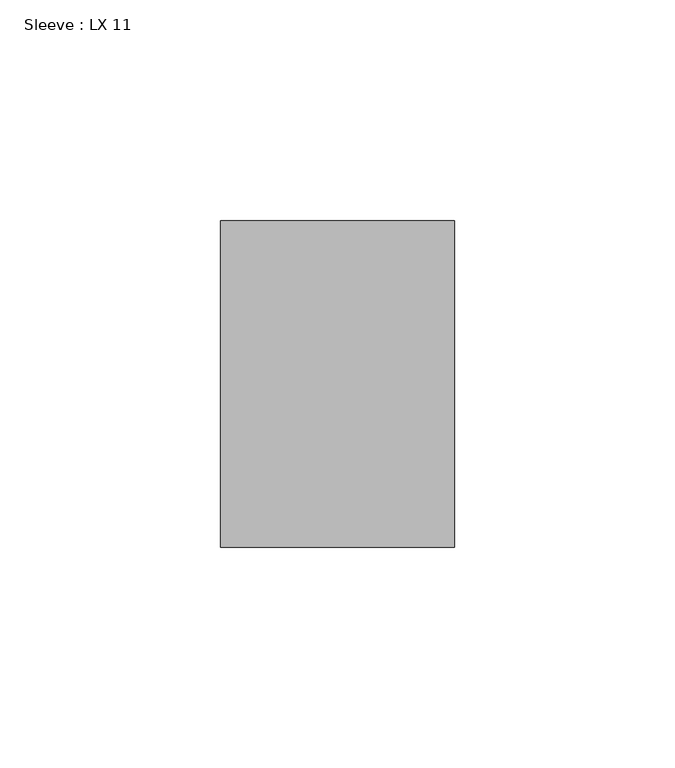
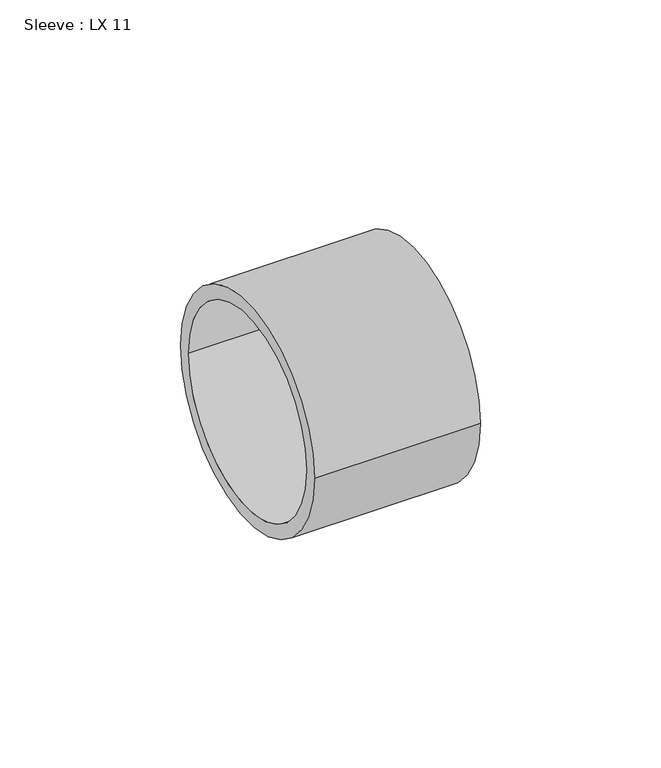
"""IFC4 building model written with IfcOpenShell, lengths in millimetres: pipe fitting geometry, Sleeve : LX 11."""

import ifcopenshell
import ifcopenshell.guid

model = None  # the IFC model being written
_history = None  # IfcOwnerHistory: only IFC2X3 demands one
_inside = {}  # id of a spatial element -> (the spatial element, [elements in it])
_under = {}  # id of a project, library or spatial element -> (it, [spatial elements below it])
_declared = {}  # id of a project -> (the project, [libraries it declares])
_typed = {}  # id of a type object -> (the type object, [elements of that type])
_made_of = {}  # id of a material, layer set ... -> (it, [elements and type objects made of it])


def new_model(schema):
    """Start an empty IFC model of exactly this schema.

    Asked for "IFC4X3", IfcOpenShell would pick the latest addendum, in which some entities
    have other attributes; the version numbers below select the first issue.
    IFC2X3 requires an IfcOwnerHistory on every rooted entity: one is made here for all.
    """
    global model, _history
    if schema == "IFC4X3":
        model = ifcopenshell.file(schema_version=(4, 3, 0, 0))
    else:
        model = ifcopenshell.file(schema=schema)
    _inside.clear()
    _under.clear()
    _declared.clear()
    _typed.clear()
    _made_of.clear()
    _history = None
    if model.schema == "IFC2X3":
        org = make("IfcOrganization", Name="unknown")
        user = make(
            "IfcPersonAndOrganization",
            ThePerson=make("IfcPerson", FamilyName="unknown"),
            TheOrganization=org,
        )
        app = make(
            "IfcApplication",
            ApplicationDeveloper=org,
            Version="unknown",
            ApplicationFullName="unknown",
            ApplicationIdentifier="unknown",
        )
        _history = make(
            "IfcOwnerHistory",
            OwningUser=user,
            OwningApplication=app,
            ChangeAction="ADDED",
            CreationDate=0,
        )
    return model


def make(cls, **values):
    """One entity of the class cls with the attributes given. An attribute that is None is left unset."""
    return model.create_entity(
        cls, **{name: value for name, value in values.items() if value is not None}
    )


def rooted(cls, **values):
    """An entity with a GlobalId (a new one), such as an element, a storey or a relation."""
    return make(cls, GlobalId=ifcopenshell.guid.new(), OwnerHistory=_history, **values)


def si_unit(unit_type, name, prefix=None):
    """IfcSIUnit, for example si_unit("LENGTHUNIT", "METRE", prefix="MILLI")."""
    return make("IfcSIUnit", UnitType=unit_type, Prefix=prefix, Name=name)


def assignment(units):
    """IfcUnitAssignment: the units of a project."""
    return None if units is None else make("IfcUnitAssignment", Units=units)


def point(xyz):
    """IfcCartesianPoint."""
    return None if xyz is None else make("IfcCartesianPoint", Coordinates=xyz)


def direction(xyz):
    """IfcDirection."""
    return None if xyz is None else make("IfcDirection", DirectionRatios=xyz)


def frame(location, z_axis=None, x_axis=None):
    """IfcAxis2Placement3D, a coordinate frame: its origin and axes. An axis left out is left unset."""
    return make(
        "IfcAxis2Placement3D",
        Location=point(location),
        Axis=direction(z_axis),
        RefDirection=direction(x_axis),
    )


def frame_2d(location, x_axis=None):
    """IfcAxis2Placement2D, a coordinate frame in the plane: its origin and x axis."""
    return make(
        "IfcAxis2Placement2D", Location=point(location), RefDirection=direction(x_axis)
    )


def origin():
    """The frame at (0, 0, 0) with its axes left unset."""
    return frame((0.0, 0.0, 0.0))


def origin_2d():
    """The frame at (0, 0) in the plane with its x axis left unset."""
    return frame_2d((0.0, 0.0))


def place(relative_to, where):
    """IfcLocalPlacement: puts the frame where relative to a parent placement (None: the world)."""
    return make(
        "IfcLocalPlacement", PlacementRelTo=relative_to, RelativePlacement=where
    )


def context(
    kind, dimensions, precision=None, world=None, true_north=None, identifier=None
):
    """IfcGeometricRepresentationContext, for example the 3D "Model" context."""
    return make(
        "IfcGeometricRepresentationContext",
        ContextIdentifier=identifier,
        ContextType=kind,
        CoordinateSpaceDimension=dimensions,
        Precision=precision,
        WorldCoordinateSystem=world,
        TrueNorth=true_north,
    )


def project(units=None, contexts=None):
    """IfcProject with its units and contexts."""
    return rooted(
        "IfcProject",
        Name="project",
        RepresentationContexts=contexts,
        UnitsInContext=assignment(units),
    )


def spatial(cls, under=None, at=None, **own):
    """A site, building, storey or space (cls), placed at a placement, below another one or the project."""
    s = rooted(cls, ObjectPlacement=at, **own)
    if under is not None:
        _under.setdefault(under.id(), (under, []))[1].append(s)
    return s


def circle_curve(where, radius):
    """IfcCircle in the frame where."""
    return make("IfcCircle", Position=where, Radius=radius)


def trimmed(basis, trim1, trim2, sense, master):
    """IfcTrimmedCurve: the piece of a basis curve between two trims."""
    return make(
        "IfcTrimmedCurve",
        BasisCurve=basis,
        Trim1=trim1,
        Trim2=trim2,
        SenseAgreement=sense,
        MasterRepresentation=master,
    )


def segment(curve, same_sense, transition):
    """IfcCompositeCurveSegment."""
    return make(
        "IfcCompositeCurveSegment",
        Transition=transition,
        SameSense=same_sense,
        ParentCurve=curve,
    )


def composite_curve(segments, self_intersect=None):
    """IfcCompositeCurve: segments joined end to end."""
    return make("IfcCompositeCurve", Segments=segments, SelfIntersect=self_intersect)


def outline(outer, holes=None, kind="AREA"):
    """IfcArbitraryClosedProfileDef: a profile drawn as a closed curve; with holes, ...WithVoids."""
    if holes is None:
        return make("IfcArbitraryClosedProfileDef", ProfileType=kind, OuterCurve=outer)
    return make(
        "IfcArbitraryProfileDefWithVoids",
        ProfileType=kind,
        OuterCurve=outer,
        InnerCurves=holes,
    )


def extrude(swept, where, along, depth):
    """IfcExtrudedAreaSolid: the profile swept, set in the frame where, extruded along a direction by depth."""
    return make(
        "IfcExtrudedAreaSolid",
        SweptArea=swept,
        Position=where,
        ExtrudedDirection=direction(along),
        Depth=depth,
    )


def shape(context_of_items, identifier, shape_type, items):
    """IfcShapeRepresentation: the items that make up one representation, for example the "Body"."""
    return make(
        "IfcShapeRepresentation",
        ContextOfItems=context_of_items,
        RepresentationIdentifier=identifier,
        RepresentationType=shape_type,
        Items=items,
    )


def source(mapping_origin, context_of_items, identifier, shape_type, items):
    """IfcRepresentationMap: a shape defined once, which mapped items show again and again."""
    return make(
        "IfcRepresentationMap",
        MappingOrigin=mapping_origin,
        MappedRepresentation=shape(context_of_items, identifier, shape_type, items),
    )


def transform(
    local_origin,
    x_axis=None,
    y_axis=None,
    z_axis=None,
    scale=None,
    scale2=None,
    scale3=None,
    uniform=True,
):
    """IfcCartesianTransformationOperator3D, or its non-uniform kind. x_axis, y_axis, z_axis: its Axis1, 2, 3."""
    if uniform:
        return make(
            "IfcCartesianTransformationOperator3D",
            Axis1=direction(x_axis),
            Axis2=direction(y_axis),
            LocalOrigin=point(local_origin),
            Scale=scale,
            Axis3=direction(z_axis),
        )
    return make(
        "IfcCartesianTransformationOperator3DnonUniform",
        Axis1=direction(x_axis),
        Axis2=direction(y_axis),
        LocalOrigin=point(local_origin),
        Scale=scale,
        Axis3=direction(z_axis),
        Scale2=scale2,
        Scale3=scale3,
    )


def mapped(mapping_source, mapping_target):
    """IfcMappedItem: shows the shape of a source again, moved by a transform."""
    return make(
        "IfcMappedItem", MappingSource=mapping_source, MappingTarget=mapping_target
    )


def made_of(thing, what):
    """Note that an element or type object is made of a material, layer set ...; save() writes the relation."""
    if what is not None:
        _made_of.setdefault(what.id(), (what, []))[1].append(thing)
    return thing


def element(
    cls,
    number,
    at=None,
    inside=None,
    cuts=None,
    type_object=None,
    material=None,
    context=None,
    identifier="Body",
    shape_type=None,
    held_by="IfcProductDefinitionShape",
    body=None,
    shapes=None,
    **own,
):
    """One element of the class cls, such as IfcWall. Its Tag is "e" and its number.

    at: its placement. inside: the storey or other place that contains it. cuts: it is an
    opening in that element (IfcRelVoidsElement). A single representation is given by context,
    identifier, shape_type and body (its items); several are given by shapes. held_by: the class
    of the entity that holds the representations. save() writes the other relations.
    """
    e = rooted(cls, Tag="e%d" % number, ObjectPlacement=at, **own)
    if body is not None:
        shapes = [shape(context, identifier, shape_type, body)]
    if shapes is not None:
        e.Representation = make(held_by, Representations=shapes)
    if inside is not None:
        _inside.setdefault(inside.id(), (inside, []))[1].append(e)
    if cuts is not None:
        rooted(
            "IfcRelVoidsElement", RelatingBuildingElement=cuts, RelatedOpeningElement=e
        )
    if type_object is not None:
        _typed.setdefault(type_object.id(), (type_object, []))[1].append(e)
    return made_of(e, material)


def aggregate(whole, parts):
    """IfcRelAggregates: a whole, such as a stair, and the parts it consists of."""
    return rooted("IfcRelAggregates", RelatingObject=whole, RelatedObjects=parts)


def save(model, path):
    """Write the relations noted so far, then the file.

    IfcRelAggregates (storeys below a building ...), IfcRelContainedInSpatialStructure (elements
    in a storey), IfcRelDefinesByType, IfcRelAssociatesMaterial and IfcRelDeclares: one each for
    every whole, place, type object, material and project.
    """
    for whole, parts in _under.values():
        aggregate(whole, parts)
    for where, things in _inside.values():
        rooted(
            "IfcRelContainedInSpatialStructure",
            RelatedElements=things,
            RelatingStructure=where,
        )
    for kind, things in _typed.values():
        rooted("IfcRelDefinesByType", RelatedObjects=things, RelatingType=kind)
    for what, things in _made_of.values():
        rooted("IfcRelAssociatesMaterial", RelatedObjects=things, RelatingMaterial=what)
    for by, libraries in _declared.values():
        rooted("IfcRelDeclares", RelatingContext=by, RelatedDefinitions=libraries)
    model.write(path)


def sleeve_lx_11_ddfe2885(model_context):
    return source(origin(), model_context, "Body", "SweptSolid", [
        extrude(outline(composite_curve([segment(trimmed(circle_curve(origin_2d(), 37.0), [point((-37.0, 0.0))], [point((37.0, 0.0))], False, "CARTESIAN"), True, "CONTINUOUS"), segment(trimmed(circle_curve(origin_2d(), 37.0), [point((37.0, 0.0))], [point((-37.0, 0.0))], False, "CARTESIAN"), True, "CONTINUOUS")], self_intersect=False), holes=[composite_curve([segment(trimmed(circle_curve(origin_2d(), 32.55), [point((-32.55, 0.0))], [point((32.55, 0.0))], True, "CARTESIAN"), True, "CONTINUOUS"), segment(trimmed(circle_curve(origin_2d(), 32.55), [point((32.55, 0.0))], [point((-32.55, 0.0))], True, "CARTESIAN"), True, "CONTINUOUS")], self_intersect=False)]), frame((0.0, 0.0, 0.0), z_axis=(1.0, 0.0, 0.0), x_axis=(0.0, 1.0, 0.0)), (0.0, 0.0, 1.0), 53.0),
    ])


if __name__ == "__main__":
    model = new_model("IFC4")
    model_context = context("Model", 3, world=origin())
    ifc_project = project(units=[si_unit("LENGTHUNIT", "METRE", prefix="MILLI")], contexts=[model_context])
    site = spatial("IfcSite", under=ifc_project)
    building = spatial("IfcBuilding", under=site)
    placement = place(None, origin())
    sleeve_lx_11_shape = sleeve_lx_11_ddfe2885(model_context)
    element("IfcPipeFitting", 1, ObjectType="Sleeve : LX 11", at=placement, inside=building, context=model_context, shape_type="MappedRepresentation", body=[
        mapped(sleeve_lx_11_shape, transform((0.0, 0.0, 0.0), x_axis=(1.0, 0.0, 0.0), y_axis=(0.0, 1.0, 0.0), z_axis=(0.0, 0.0, 1.0))),
    ])
    save(model, "model.ifc")
